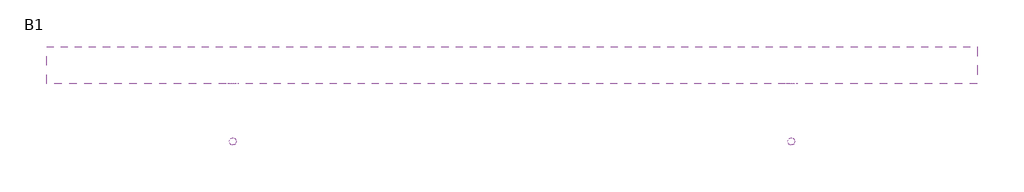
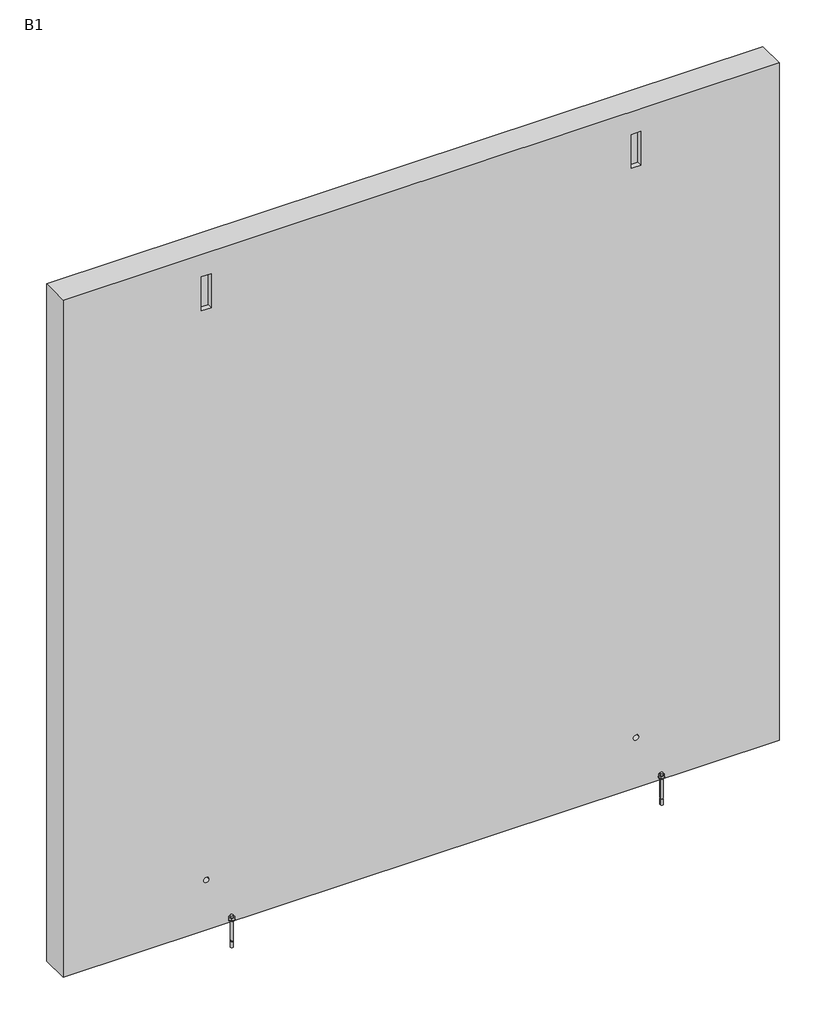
# One storey: 2 fasteners, 1 proxy.
"""IFC4 building model written with IfcOpenShell, lengths in millimetres."""

from ifc_helpers import new_model, si_unit, frame, origin, place, context, project, spatial, polyline, circle_curve, transform, mapped, element, save
from ifc_brep_helpers import plane_surface, revolved_surface, advanced_brep
from components import rec_aem12_140_aem12_140_dcbebcd7, rec_aem12_140_aem12_140_f4c1c3c3

model = new_model("IFC4")

# Units and contexts
model_context = context("Model", 3, world=origin())
ifc_project = project(units=[si_unit("LENGTHUNIT", "METRE", prefix="MILLI")], contexts=[model_context])

# Site, building, storey
site = spatial("IfcSite", under=ifc_project)
building = spatial("IfcBuilding", under=site)
storey = spatial("IfcBuildingStorey", under=building, Name="B1", Elevation=-3000.0)

# Proxy
placement = place(None, origin())
element("IfcBuildingElementProxy", 1, Name="Panel Hormigón : Panel Hormigón", ObjectType="Panel Hormigón : Panel Hormigón", at=placement, inside=storey, context=model_context, shape_type="AdvancedBrep", body=[
    advanced_brep(
    [(4887.7202663, 16074.5302953, 2850.0), (4887.7202663, 15954.5302953, 2850.0), (7887.7202663, 15954.5302953, 2850.0), (7887.7202663, 16074.5302953, 2850.0), (4887.7202663, 16074.5302953, -150.0), (7887.7202663, 16074.5302953, -150.0), (7887.7202663, 15954.5302953, -150.0), (4887.7202663, 15954.5302953, -150.0), (5467.5702663, 15954.5302953, 2750.0), (5507.8702663, 15954.5302953, 2750.0), (5507.8702663, 15954.5302953, 2600.0), (5467.5702663, 15954.5302953, 2600.0), (7267.5702663, 15954.5302953, 2750.0), (7307.8702663, 15954.5302953, 2750.0), (7307.8702663, 15954.5302953, 2600.0), (7267.5702663, 15954.5302953, 2600.0), (5498.7202663, 15954.5302953, 72.0), (5476.7202663, 15954.5302953, 72.0), (7298.7202663, 15954.5302953, 72.0), (7276.7202663, 15954.5302953, 72.0), (5467.5702663, 15976.6051011, 2750.0), (5507.8702663, 15976.6051011, 2750.0), (5467.5702663, 15976.6051011, 2600.0), (5507.8702663, 15976.6051011, 2600.0), (7307.8702663, 15976.6051011, 2750.0), (7267.5702663, 15976.6051011, 2750.0), (7307.8702663, 15976.6051011, 2600.0), (7267.5702663, 15976.6051011, 2600.0), (5476.7202663, 15999.5302953, 72.0), (5498.7202663, 15999.5302953, 72.0), (7298.7202663, 15999.5302953, 72.0), (7276.7202663, 15999.5302953, 72.0)],
    [
        (0, 1),
        (1, 2),
        (2, 3),
        (3, 0),
        (4, 5),
        (5, 6),
        (6, 7),
        (7, 4),
        (0, 4),
        (7, 1),
        (6, 2),
        (8, 9),
        (9, 10),
        (10, 11),
        (11, 8),
        (12, 13),
        (13, 14),
        (14, 15),
        (15, 12),
        (16, 17, circle_curve(frame((5487.7202663, 15954.5302953, 72.0), z_axis=(0.0, 1.0, 0.0), x_axis=(1.0, 0.0, 0.0)), 11.0)),
        (17, 16, circle_curve(frame((5487.7202663, 15954.5302953, 72.0), z_axis=(0.0, 1.0, 0.0), x_axis=(1.0, 0.0, 0.0)), 11.0)),
        (18, 19, circle_curve(frame((7287.7202663, 15954.5302953, 72.0), z_axis=(0.0, 1.0, 0.0), x_axis=(-1.0, 0.0, 0.0)), 11.0)),
        (19, 18, circle_curve(frame((7287.7202663, 15954.5302953, 72.0), z_axis=(0.0, 1.0, 0.0), x_axis=(-1.0, 0.0, 0.0)), 11.0)),
        (5, 3),
        (20, 21),
        (21, 9),
        (8, 20),
        (22, 11),
        (10, 23),
        (23, 22),
        (22, 20),
        (21, 23),
        (24, 13),
        (12, 25),
        (25, 24),
        (26, 27),
        (27, 15),
        (14, 26),
        (24, 26),
        (27, 25),
        (28, 29, circle_curve(frame((5487.7202663, 15999.5302953, 72.0), z_axis=(0.0, -1.0, 0.0), x_axis=(1.0, 0.0, 0.0)), 11.0)),
        (29, 28, circle_curve(frame((5487.7202663, 15999.5302953, 72.0), z_axis=(0.0, -1.0, 0.0), x_axis=(1.0, 0.0, 0.0)), 11.0)),
        (28, 17),
        (16, 29),
        (30, 31, circle_curve(frame((7287.7202663, 15999.5302953, 72.0), z_axis=(0.0, -1.0, 0.0), x_axis=(-1.0, 0.0, 0.0)), 11.0)),
        (31, 30, circle_curve(frame((7287.7202663, 15999.5302953, 72.0), z_axis=(0.0, -1.0, 0.0), x_axis=(-1.0, 0.0, 0.0)), 11.0)),
        (31, 19),
        (18, 30),
    ],
    [
        plane_surface(frame((4887.7202663, 16074.5302953, 2850.0), z_axis=(0.0, 0.0, 1.0), x_axis=(0.0, -1.0, 0.0))),
        plane_surface(frame((4887.7202663, 16074.5302953, -150.0), z_axis=(0.0, 0.0, -1.0), x_axis=(0.0, 1.0, 0.0))),
        plane_surface(frame((4887.7202663, 16074.5302953, 2850.0), z_axis=(-1.0, 0.0, 0.0), x_axis=(0.0, 0.0, -1.0))),
        plane_surface(frame((4887.7202663, 15954.5302953, 2850.0), z_axis=(0.0, -1.0, 0.0), x_axis=(0.0, 0.0, -1.0))),
        plane_surface(frame((7887.7202663, 15954.5302953, 2850.0), z_axis=(1.0, 0.0, 0.0), x_axis=(0.0, 0.0, -1.0))),
        plane_surface(frame((7887.7202663, 16074.5302953, 2850.0), z_axis=(0.0, 1.0, 0.0), x_axis=(0.0, 0.0, -1.0))),
        plane_surface(frame((5467.5702663, 15971.6051011, 2750.0), z_axis=(0.0, 0.0, -1.0), x_axis=(0.0, -1.0, 0.0))),
        plane_surface(frame((5467.5702663, 15971.6051011, 2600.0), z_axis=(0.0, 0.0, 1.0), x_axis=(0.0, 1.0, 0.0))),
        plane_surface(frame((5467.5702663, 15976.6051011, 2750.0), z_axis=(1.0, 0.0, 0.0), x_axis=(0.0, 0.0, -1.0))),
        plane_surface(frame((5507.8702663, 15954.6051011, 2750.0), z_axis=(-1.0, 0.0, 0.0), x_axis=(0.0, 0.0, -1.0))),
        plane_surface(frame((5507.8702663, 15976.6051011, 2750.0), z_axis=(0.0, -1.0, 0.0), x_axis=(0.0, 0.0, -1.0))),
        plane_surface(frame((7307.8702663, 15971.6051011, 2750.0), z_axis=(0.0, 0.0, -1.0), x_axis=(0.0, -1.0, 0.0))),
        plane_surface(frame((7307.8702663, 15971.6051011, 2600.0), z_axis=(0.0, 0.0, 1.0), x_axis=(0.0, 1.0, 0.0))),
        plane_surface(frame((7307.8702663, 15976.6051011, 2750.0), z_axis=(-1.0, 0.0, 0.0), x_axis=(0.0, 0.0, -1.0))),
        plane_surface(frame((7267.5702663, 15954.6051011, 2750.0), z_axis=(1.0, 0.0, 0.0), x_axis=(0.0, 0.0, -1.0))),
        plane_surface(frame((7267.5702663, 15976.6051011, 2750.0), z_axis=(0.0, -1.0, 0.0), x_axis=(0.0, 0.0, -1.0))),
        plane_surface(frame((5498.7202663, 15999.5302953, 72.0), z_axis=(0.0, -1.0, 0.0), x_axis=(0.0, 0.0, -1.0))),
        revolved_surface(polyline([(5498.7202663, 15954.5302953, 72.0), (5498.7202663, 15999.5302953, 72.0)]), (5487.7202663, 15999.5302953, 72.0), (0.0, -1.0, 0.0)),
        plane_surface(frame((7276.7202663, 15999.5302953, 72.0), z_axis=(0.0, -1.0, 0.0), x_axis=(0.0, 0.0, -1.0))),
        revolved_surface(polyline([(7276.7202663, 15954.5302953, 72.0), (7276.7202663, 15999.5302953, 72.0)]), (7287.7202663, 15999.5302953, 72.0), (0.0, -1.0, 0.0)),
    ],
    [
        (0, [[1, 2, 3, 4]]),
        (1, [[5, 6, 7, 8]]),
        (2, [[-1, 9, -8, 10]]),
        (3, [[-2, -10, -7, 11], [12, 13, 14, 15], [16, 17, 18, 19], [20, 21], [22, 23]]),
        (4, [[-3, -11, -6, 24]]),
        (5, [[-4, -24, -5, -9]]),
        (6, [[25, 26, -12, 27]]),
        (7, [[28, -14, 29, 30]]),
        (8, [[-27, -15, -28, 31]]),
        (9, [[-26, 32, -29, -13]]),
        (10, [[-25, -31, -30, -32]]),
        (11, [[33, -16, 34, 35]]),
        (12, [[36, 37, -18, 38]]),
        (13, [[-33, 39, -38, -17]]),
        (14, [[-34, -19, -37, 40]]),
        (15, [[-35, -40, -36, -39]]),
        (16, [[41, 42]]),
        (17, [[-41, 43, -20, 44]]),
        (17, [[-42, -44, -21, -43]]),
        (18, [[45, 46]]),
        (19, [[-46, 47, -22, 48]]),
        (19, [[-45, -48, -23, -47]]),
    ],
),
])

# Fasteners
rec_aem12_140_aem12_140_shape = rec_aem12_140_aem12_140_dcbebcd7(model_context)
element("IfcFastener", 2, ObjectType="REC-AEM12-140 : AEM12-140", at=placement, inside=storey, context=model_context, shape_type="MappedRepresentation", body=[
    mapped(rec_aem12_140_aem12_140_shape, transform((5487.7202663, 15769.5302953, 8.0), x_axis=(1.0, 0.0, 0.0), y_axis=(0.0, 1.0, 0.0), z_axis=(0.0, 0.0, 1.0))),
])
rec_aem12_140_aem12_140_2_shape = rec_aem12_140_aem12_140_f4c1c3c3(model_context)
element("IfcFastener", 3, ObjectType="REC-AEM12-140 : AEM12-140", at=placement, inside=storey, context=model_context, shape_type="MappedRepresentation", body=[
    mapped(rec_aem12_140_aem12_140_2_shape, transform((7287.7202663, 15769.5302953, 8.0), x_axis=(-1.0, 0.0, 0.0), y_axis=(0.0, -1.0, 0.0), z_axis=(0.0, 0.0, 1.0))),
])

save(model, "model.ifc")
